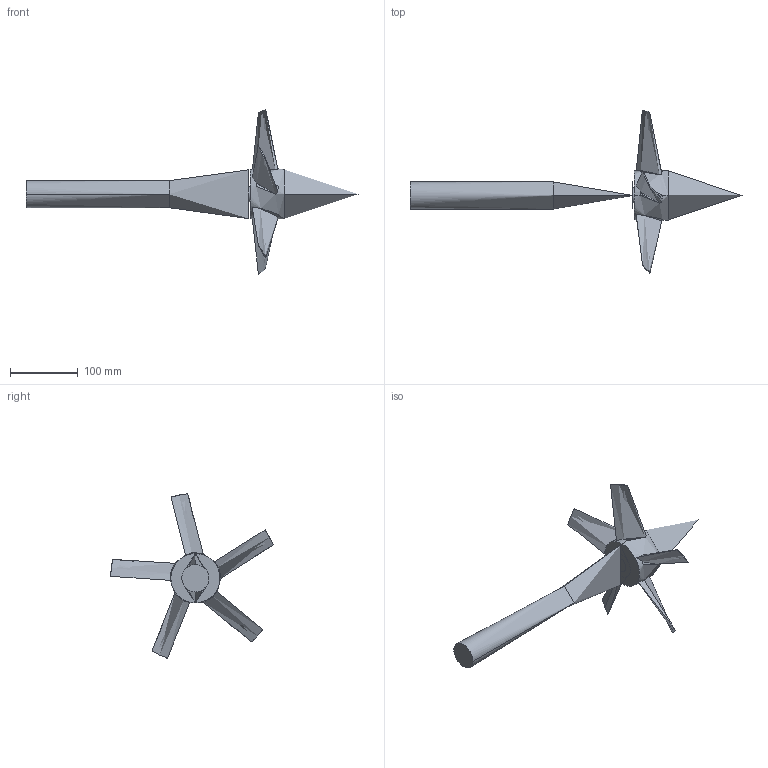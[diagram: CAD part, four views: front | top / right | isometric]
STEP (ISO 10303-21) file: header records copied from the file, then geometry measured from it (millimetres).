
FILE_DESCRIPTION(/* description */ (''),/* implementation_level */ '2;1');
FILE_NAME(/* name */ 'case2-1_PPTC_geo',/* time_stamp */ '2011-08-26T11:25:51+02:00',/* author */ (''),/* organization */ (''),/* preprocessor_version */ 'ST-DEVELOPER v10',/* originating_system */ '',/* authorisation */ '');
FILE_SCHEMA (('AUTOMOTIVE_DESIGN_CC2'));
Length unit declared in the file: millimetre
Products named in the file (1): 1
Bounding box: 489.69 x 239.85 x 242.47 mm (x, y, z)
Volume: 1176341.3 mm3; surface area: 164646 mm2
Topology: 1 solids, 1 shells, 72 faces, 212 edges, 138 vertices
Faces by surface type: bspline 69, plane 3
Entity records: 18716 total; most frequent: CARTESIAN_POINT 17448, ORIENTED_EDGE 356, EDGE_CURVE 178, B_SPLINE_CURVE_WITH_KNOTS 154, VERTEX_POINT 114, EDGE_LOOP 78, ADVANCED_FACE 72, FACE_OUTER_BOUND 72
